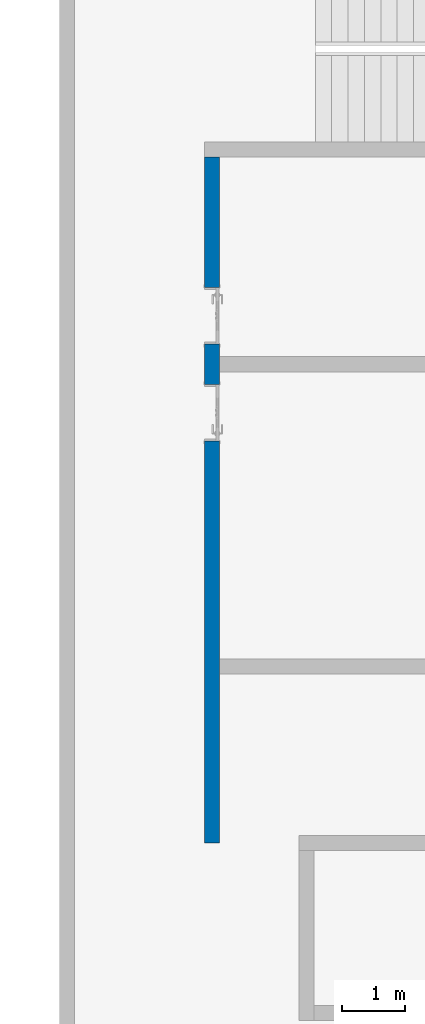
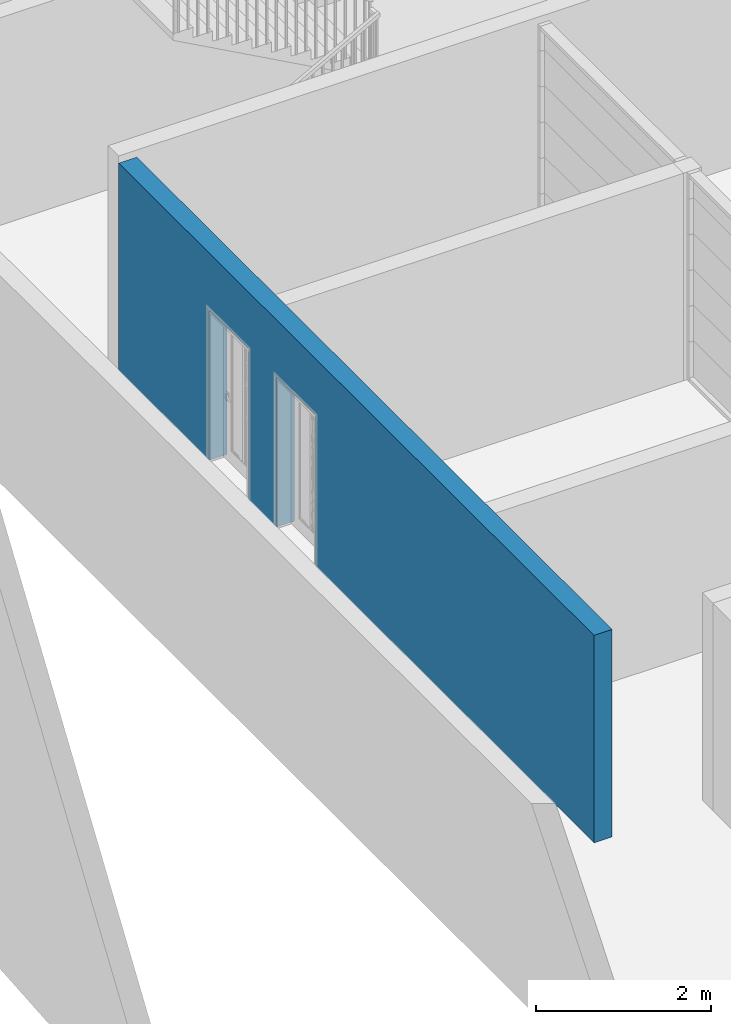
# One storey, part 5 of 16: 1 wall, 2 openings.
"""IFC2X3 building model written with IfcOpenShell, lengths in millimetres."""

from ifc_helpers import new_model, entity, si_unit, converted_unit, derived_unit, direction, frame, frame_2d, origin, place, context, subcontext, project, spatial, polyline, rectangle, extrude, clip, bounded_halfspace, material, layer, layer_set, layer_usage, type_object, element, save


model = new_model("IFC2X3")

# Units and contexts
model_context = context("Model", 3, precision=0.01, world=origin(), true_north=direction((6.12303176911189e-17, 1.0)))
body_context = subcontext(model_context, "Body", "Model", "MODEL_VIEW")
ifc_project = project(units=[si_unit("LENGTHUNIT", "METRE", prefix="MILLI"), si_unit("AREAUNIT", "SQUARE_METRE"), si_unit("VOLUMEUNIT", "CUBIC_METRE"), converted_unit("PLANEANGLEUNIT", "DEGREE", entity("IfcRatioMeasure", 0.0174532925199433), si_unit("PLANEANGLEUNIT", "RADIAN"), dimensions=[0, 0, 0, 0, 0, 0, 0]), si_unit("MASSUNIT", "GRAM", prefix="KILO"), derived_unit("MASSDENSITYUNIT", [(si_unit("MASSUNIT", "GRAM", prefix="KILO"), 1), (si_unit("LENGTHUNIT", "METRE"), -3)]), si_unit("TIMEUNIT", "SECOND"), si_unit("FREQUENCYUNIT", "HERTZ"), si_unit("THERMODYNAMICTEMPERATUREUNIT", "DEGREE_CELSIUS"), derived_unit("THERMALTRANSMITTANCEUNIT", [(si_unit("MASSUNIT", "GRAM", prefix="KILO"), 1), (si_unit("THERMODYNAMICTEMPERATUREUNIT", "KELVIN"), -1), (si_unit("TIMEUNIT", "SECOND"), -3)]), derived_unit("VOLUMETRICFLOWRATEUNIT", [(si_unit("LENGTHUNIT", "METRE"), 3), (si_unit("TIMEUNIT", "SECOND"), -1)]), si_unit("ELECTRICCURRENTUNIT", "AMPERE"), si_unit("ELECTRICVOLTAGEUNIT", "VOLT"), si_unit("POWERUNIT", "WATT"), si_unit("FORCEUNIT", "NEWTON", prefix="KILO"), si_unit("ILLUMINANCEUNIT", "LUX"), si_unit("LUMINOUSFLUXUNIT", "LUMEN"), si_unit("LUMINOUSINTENSITYUNIT", "CANDELA"), derived_unit("USERDEFINED", [(si_unit("MASSUNIT", "GRAM", prefix="KILO"), -1), (si_unit("LENGTHUNIT", "METRE"), -2), (si_unit("TIMEUNIT", "SECOND"), 3), (si_unit("LUMINOUSFLUXUNIT", "LUMEN"), 1)]), derived_unit("LINEARVELOCITYUNIT", [(si_unit("LENGTHUNIT", "METRE"), 1), (si_unit("TIMEUNIT", "SECOND"), -1)]), si_unit("PRESSUREUNIT", "PASCAL"), derived_unit("USERDEFINED", [(si_unit("LENGTHUNIT", "METRE"), -2), (si_unit("MASSUNIT", "GRAM", prefix="KILO"), 1), (si_unit("TIMEUNIT", "SECOND"), -2)])], contexts=[model_context])

# Site, building, storey
site_placement = place(None, origin())
site = spatial("IfcSite", under=ifc_project, at=site_placement, Name="表面", CompositionType="ELEMENT")
building_placement = place(site_placement, origin())
building = spatial("IfcBuilding", under=site, at=building_placement, CompositionType="ELEMENT")
storey_placement = place(building_placement, frame((0.0, 0.0, 3000.0)))
storey = spatial("IfcBuildingStorey", under=building, at=storey_placement, Name="2F", CompositionType="ELEMENT", Elevation=3000.00000000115)

# Wall, openings
ifc_material_1 = material(Name="白色涂料")
ifc_layer_1 = layer(ifc_material_1, 10.0)
ifc_material_2 = material(Name="默认墙")
ifc_layer_2 = layer(ifc_material_2, 220.0)
ifc_layer_3 = layer(ifc_material_1, 10.0)
ifc_layer_set = layer_set([ifc_layer_1, ifc_layer_2, ifc_layer_3], Name="基本墙:粉刷墙240")
ifc_layer_usage = layer_usage(ifc_layer_set, "AXIS2", "NEGATIVE", 120.0)
wall_type = type_object("IfcWallType", Name="基本墙:粉刷墙240", PredefinedType="STANDARD", material=ifc_layer_set)
wall_placement = place(storey_placement, frame((-12130.2499126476, -8827.84591297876, 0.0), z_axis=(0.0, 0.0, 1.0), x_axis=(0.0, -1.0, 0.0)))
wall = element("IfcWallStandardCase", 1, at=wall_placement, inside=storey, type_object=wall_type, material=ifc_layer_usage, Name="基本墙:粉刷墙240", ObjectType="基本墙:粉刷墙240", context=body_context, shape_type="Clipping", body=[
    clip(extrude(rectangle(XDim=10889.0225136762, YDim=240.000000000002, at=frame_2d((5444.51125683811, -1.06581410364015e-13), x_axis=(-1.0, 0.0))), origin(), (0.0, 0.0, 1.0), 2900.0), bounded_halfspace(frame((0.0, -120.0, 2900.0), z_axis=(0.0, 0.0, -1.0), x_axis=(1.0, 0.0, 0.0)), True, frame((0.0, -120.0, 2900.0)), polyline([(0.0, 0.0), (10889.0225136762, 0.0), (10889.0225136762, 240.0), (8209.02251367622, 240.0), (7969.02251367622, 240.0), (3409.02251367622, 240.0), (3169.02251367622, 240.0), (0.0, 240.0), (0.0, 0.0)]))),
])
opening_1_placement = place(wall_placement, frame((2069.02251367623, -120.0, 1.15433635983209e-09)))
element("IfcOpeningElement", 2, at=opening_1_placement, cuts=wall, Name="装饰木门:M0921:1", ObjectType="Opening", context=body_context, shape_type="SweptSolid", body=[
    extrude(rectangle(XDim=2099.99999999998, YDim=900.0, at=frame_2d((1049.99999999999, 450.0), x_axis=(1.0, 0.0))), frame((0.0, 0.0, 0.0), z_axis=(0.0, 1.0, 0.0), x_axis=(0.0, 0.0, 1.0)), (0.0, 0.0, 1.0), 240.0),
])
opening_2_placement = place(wall_placement, frame((3609.02251367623, -120.0, 1.15433635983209e-09)))
element("IfcOpeningElement", 3, at=opening_2_placement, cuts=wall, Name="装饰木门:M0921:1", ObjectType="Opening", context=body_context, shape_type="SweptSolid", body=[
    extrude(rectangle(XDim=2099.99999999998, YDim=900.0, at=frame_2d((1049.99999999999, 450.0), x_axis=(1.0, 0.0))), frame((0.0, 0.0, 0.0), z_axis=(0.0, 1.0, 0.0), x_axis=(0.0, 0.0, 1.0)), (0.0, 0.0, 1.0), 240.0),
])

save(model, "model.ifc")
